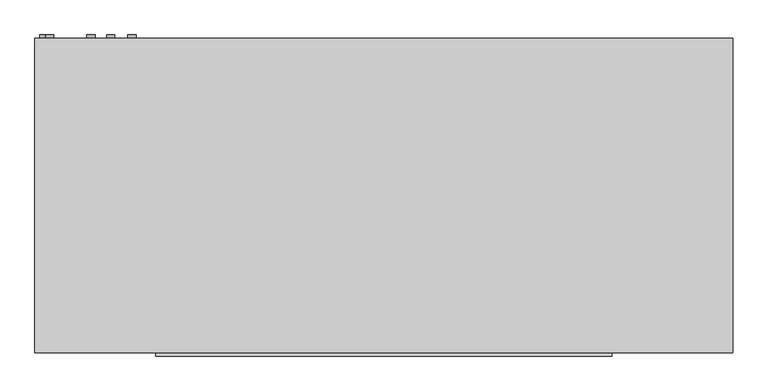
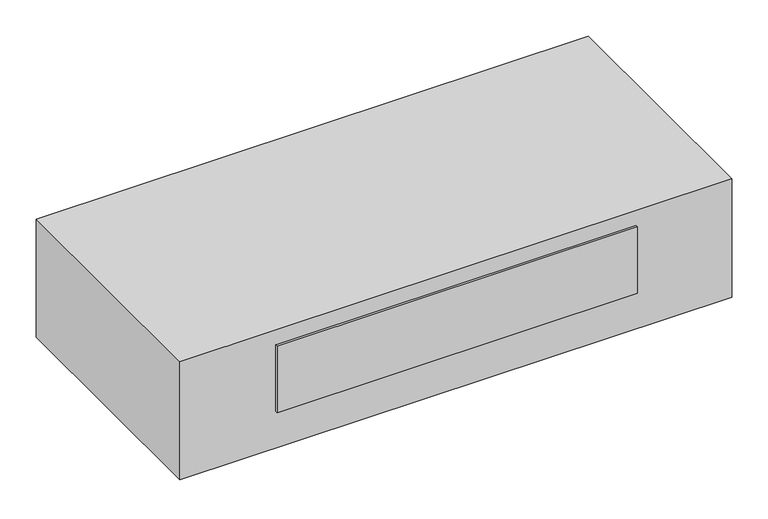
"""IFC4 building model written with IfcOpenShell, lengths in millimetres: proxy geometry, Exposed_Horizontal_Fan_Coil_Unit_-_42CGB_-_CARRIER_-_4-Pipe_FS-BR_LH_2022 : Size 06 - 277v/60Hz/1Ph - 4/1 Coil."""

import ifcopenshell
import ifcopenshell.guid

model = None  # the IFC model being written
_history = None  # IfcOwnerHistory: only IFC2X3 demands one
_inside = {}  # id of a spatial element -> (the spatial element, [elements in it])
_under = {}  # id of a project, library or spatial element -> (it, [spatial elements below it])
_declared = {}  # id of a project -> (the project, [libraries it declares])
_typed = {}  # id of a type object -> (the type object, [elements of that type])
_made_of = {}  # id of a material, layer set ... -> (it, [elements and type objects made of it])


def new_model(schema):
    """Start an empty IFC model of exactly this schema.

    Asked for "IFC4X3", IfcOpenShell would pick the latest addendum, in which some entities
    have other attributes; the version numbers below select the first issue.
    IFC2X3 requires an IfcOwnerHistory on every rooted entity: one is made here for all.
    """
    global model, _history
    if schema == "IFC4X3":
        model = ifcopenshell.file(schema_version=(4, 3, 0, 0))
    else:
        model = ifcopenshell.file(schema=schema)
    _inside.clear()
    _under.clear()
    _declared.clear()
    _typed.clear()
    _made_of.clear()
    _history = None
    if model.schema == "IFC2X3":
        org = make("IfcOrganization", Name="unknown")
        user = make(
            "IfcPersonAndOrganization",
            ThePerson=make("IfcPerson", FamilyName="unknown"),
            TheOrganization=org,
        )
        app = make(
            "IfcApplication",
            ApplicationDeveloper=org,
            Version="unknown",
            ApplicationFullName="unknown",
            ApplicationIdentifier="unknown",
        )
        _history = make(
            "IfcOwnerHistory",
            OwningUser=user,
            OwningApplication=app,
            ChangeAction="ADDED",
            CreationDate=0,
        )
    return model


def make(cls, **values):
    """One entity of the class cls with the attributes given. An attribute that is None is left unset."""
    return model.create_entity(
        cls, **{name: value for name, value in values.items() if value is not None}
    )


def rooted(cls, **values):
    """An entity with a GlobalId (a new one), such as an element, a storey or a relation."""
    return make(cls, GlobalId=ifcopenshell.guid.new(), OwnerHistory=_history, **values)


def si_unit(unit_type, name, prefix=None):
    """IfcSIUnit, for example si_unit("LENGTHUNIT", "METRE", prefix="MILLI")."""
    return make("IfcSIUnit", UnitType=unit_type, Prefix=prefix, Name=name)


def assignment(units):
    """IfcUnitAssignment: the units of a project."""
    return None if units is None else make("IfcUnitAssignment", Units=units)


def point(xyz):
    """IfcCartesianPoint."""
    return None if xyz is None else make("IfcCartesianPoint", Coordinates=xyz)


def direction(xyz):
    """IfcDirection."""
    return None if xyz is None else make("IfcDirection", DirectionRatios=xyz)


def frame(location, z_axis=None, x_axis=None):
    """IfcAxis2Placement3D, a coordinate frame: its origin and axes. An axis left out is left unset."""
    return make(
        "IfcAxis2Placement3D",
        Location=point(location),
        Axis=direction(z_axis),
        RefDirection=direction(x_axis),
    )


def frame_2d(location, x_axis=None):
    """IfcAxis2Placement2D, a coordinate frame in the plane: its origin and x axis."""
    return make(
        "IfcAxis2Placement2D", Location=point(location), RefDirection=direction(x_axis)
    )


def origin():
    """The frame at (0, 0, 0) with its axes left unset."""
    return frame((0.0, 0.0, 0.0))


def place(relative_to, where):
    """IfcLocalPlacement: puts the frame where relative to a parent placement (None: the world)."""
    return make(
        "IfcLocalPlacement", PlacementRelTo=relative_to, RelativePlacement=where
    )


def context(
    kind, dimensions, precision=None, world=None, true_north=None, identifier=None
):
    """IfcGeometricRepresentationContext, for example the 3D "Model" context."""
    return make(
        "IfcGeometricRepresentationContext",
        ContextIdentifier=identifier,
        ContextType=kind,
        CoordinateSpaceDimension=dimensions,
        Precision=precision,
        WorldCoordinateSystem=world,
        TrueNorth=true_north,
    )


def project(units=None, contexts=None):
    """IfcProject with its units and contexts."""
    return rooted(
        "IfcProject",
        Name="project",
        RepresentationContexts=contexts,
        UnitsInContext=assignment(units),
    )


def spatial(cls, under=None, at=None, **own):
    """A site, building, storey or space (cls), placed at a placement, below another one or the project."""
    s = rooted(cls, ObjectPlacement=at, **own)
    if under is not None:
        _under.setdefault(under.id(), (under, []))[1].append(s)
    return s


def polyline(points):
    """IfcPolyline through the points."""
    return make("IfcPolyline", Points=[point(p) for p in points])


def circle_curve(where, radius):
    """IfcCircle in the frame where."""
    return make("IfcCircle", Position=where, Radius=radius)


def trimmed(basis, trim1, trim2, sense, master):
    """IfcTrimmedCurve: the piece of a basis curve between two trims."""
    return make(
        "IfcTrimmedCurve",
        BasisCurve=basis,
        Trim1=trim1,
        Trim2=trim2,
        SenseAgreement=sense,
        MasterRepresentation=master,
    )


def segment(curve, same_sense, transition):
    """IfcCompositeCurveSegment."""
    return make(
        "IfcCompositeCurveSegment",
        Transition=transition,
        SameSense=same_sense,
        ParentCurve=curve,
    )


def composite_curve(segments, self_intersect=None):
    """IfcCompositeCurve: segments joined end to end."""
    return make("IfcCompositeCurve", Segments=segments, SelfIntersect=self_intersect)


def outline(outer, holes=None, kind="AREA"):
    """IfcArbitraryClosedProfileDef: a profile drawn as a closed curve; with holes, ...WithVoids."""
    if holes is None:
        return make("IfcArbitraryClosedProfileDef", ProfileType=kind, OuterCurve=outer)
    return make(
        "IfcArbitraryProfileDefWithVoids",
        ProfileType=kind,
        OuterCurve=outer,
        InnerCurves=holes,
    )


def extrude(swept, where, along, depth):
    """IfcExtrudedAreaSolid: the profile swept, set in the frame where, extruded along a direction by depth."""
    return make(
        "IfcExtrudedAreaSolid",
        SweptArea=swept,
        Position=where,
        ExtrudedDirection=direction(along),
        Depth=depth,
    )


def shape(context_of_items, identifier, shape_type, items):
    """IfcShapeRepresentation: the items that make up one representation, for example the "Body"."""
    return make(
        "IfcShapeRepresentation",
        ContextOfItems=context_of_items,
        RepresentationIdentifier=identifier,
        RepresentationType=shape_type,
        Items=items,
    )


def source(mapping_origin, context_of_items, identifier, shape_type, items):
    """IfcRepresentationMap: a shape defined once, which mapped items show again and again."""
    return make(
        "IfcRepresentationMap",
        MappingOrigin=mapping_origin,
        MappedRepresentation=shape(context_of_items, identifier, shape_type, items),
    )


def transform(
    local_origin,
    x_axis=None,
    y_axis=None,
    z_axis=None,
    scale=None,
    scale2=None,
    scale3=None,
    uniform=True,
):
    """IfcCartesianTransformationOperator3D, or its non-uniform kind. x_axis, y_axis, z_axis: its Axis1, 2, 3."""
    if uniform:
        return make(
            "IfcCartesianTransformationOperator3D",
            Axis1=direction(x_axis),
            Axis2=direction(y_axis),
            LocalOrigin=point(local_origin),
            Scale=scale,
            Axis3=direction(z_axis),
        )
    return make(
        "IfcCartesianTransformationOperator3DnonUniform",
        Axis1=direction(x_axis),
        Axis2=direction(y_axis),
        LocalOrigin=point(local_origin),
        Scale=scale,
        Axis3=direction(z_axis),
        Scale2=scale2,
        Scale3=scale3,
    )


def mapped(mapping_source, mapping_target):
    """IfcMappedItem: shows the shape of a source again, moved by a transform."""
    return make(
        "IfcMappedItem", MappingSource=mapping_source, MappingTarget=mapping_target
    )


def made_of(thing, what):
    """Note that an element or type object is made of a material, layer set ...; save() writes the relation."""
    if what is not None:
        _made_of.setdefault(what.id(), (what, []))[1].append(thing)
    return thing


def element(
    cls,
    number,
    at=None,
    inside=None,
    cuts=None,
    type_object=None,
    material=None,
    context=None,
    identifier="Body",
    shape_type=None,
    held_by="IfcProductDefinitionShape",
    body=None,
    shapes=None,
    **own,
):
    """One element of the class cls, such as IfcWall. Its Tag is "e" and its number.

    at: its placement. inside: the storey or other place that contains it. cuts: it is an
    opening in that element (IfcRelVoidsElement). A single representation is given by context,
    identifier, shape_type and body (its items); several are given by shapes. held_by: the class
    of the entity that holds the representations. save() writes the other relations.
    """
    e = rooted(cls, Tag="e%d" % number, ObjectPlacement=at, **own)
    if body is not None:
        shapes = [shape(context, identifier, shape_type, body)]
    if shapes is not None:
        e.Representation = make(held_by, Representations=shapes)
    if inside is not None:
        _inside.setdefault(inside.id(), (inside, []))[1].append(e)
    if cuts is not None:
        rooted(
            "IfcRelVoidsElement", RelatingBuildingElement=cuts, RelatedOpeningElement=e
        )
    if type_object is not None:
        _typed.setdefault(type_object.id(), (type_object, []))[1].append(e)
    return made_of(e, material)


def aggregate(whole, parts):
    """IfcRelAggregates: a whole, such as a stair, and the parts it consists of."""
    return rooted("IfcRelAggregates", RelatingObject=whole, RelatedObjects=parts)


def save(model, path):
    """Write the relations noted so far, then the file.

    IfcRelAggregates (storeys below a building ...), IfcRelContainedInSpatialStructure (elements
    in a storey), IfcRelDefinesByType, IfcRelAssociatesMaterial and IfcRelDeclares: one each for
    every whole, place, type object, material and project.
    """
    for whole, parts in _under.values():
        aggregate(whole, parts)
    for where, things in _inside.values():
        rooted(
            "IfcRelContainedInSpatialStructure",
            RelatedElements=things,
            RelatingStructure=where,
        )
    for kind, things in _typed.values():
        rooted("IfcRelDefinesByType", RelatedObjects=things, RelatingType=kind)
    for what, things in _made_of.values():
        rooted("IfcRelAssociatesMaterial", RelatedObjects=things, RelatingMaterial=what)
    for by, libraries in _declared.values():
        rooted("IfcRelDeclares", RelatingContext=by, RelatedDefinitions=libraries)
    model.write(path)


def mechanical_equipment_f25a14e5(model_context):
    return source(origin(), model_context, "Body", "SweptSolid", [
        extrude(outline(composite_curve([segment(trimmed(circle_curve(frame_2d((-261.434158, -501.8546393)), 9.525), [point((-261.434158, -492.3296393))], [point((-261.434158, -511.3796393))], False, "CARTESIAN"), True, "CONTINUOUS"), segment(trimmed(circle_curve(frame_2d((-261.434158, -501.8546393)), 9.525), [point((-261.434158, -511.3796393))], [point((-261.434158, -492.3296393))], False, "CARTESIAN"), True, "CONTINUOUS")], self_intersect=False)), frame((0.0, 65.0875, 0.0), z_axis=(0.0, 1.0, 0.0), x_axis=(0.0, 0.0, 1.0)), (0.0, 0.0, 1.0), 6.35),
        extrude(outline(composite_curve([segment(trimmed(circle_curve(frame_2d((-85.725, -492.125)), 7.9375), [point((-85.725, -484.1875))], [point((-85.725, -500.0625))], False, "CARTESIAN"), True, "CONTINUOUS"), segment(trimmed(circle_curve(frame_2d((-85.725, -492.125)), 7.9375), [point((-85.725, -500.0625))], [point((-85.725, -484.1875))], False, "CARTESIAN"), True, "CONTINUOUS")], self_intersect=False)), frame((0.0, 65.0875, 0.0), z_axis=(0.0, 1.0, 0.0), x_axis=(0.0, 0.0, 1.0)), (0.0, 0.0, 1.0), 6.35),
        extrude(outline(composite_curve([segment(trimmed(circle_curve(frame_2d((-44.45, -412.75)), 7.9375), [point((-44.45, -404.8125))], [point((-44.45, -420.6875))], False, "CARTESIAN"), True, "CONTINUOUS"), segment(trimmed(circle_curve(frame_2d((-44.45, -412.75)), 7.9375), [point((-44.45, -420.6875))], [point((-44.45, -404.8125))], False, "CARTESIAN"), True, "CONTINUOUS")], self_intersect=False)), frame((0.0, 65.0875, 0.0), z_axis=(0.0, 1.0, 0.0), x_axis=(0.0, 0.0, 1.0)), (0.0, 0.0, 1.0), 6.35),
        extrude(outline(composite_curve([segment(trimmed(circle_curve(frame_2d((-95.25, -374.65)), 7.9375), [point((-95.25, -366.7125))], [point((-95.25, -382.5875))], False, "CARTESIAN"), True, "CONTINUOUS"), segment(trimmed(circle_curve(frame_2d((-95.25, -374.65)), 7.9375), [point((-95.25, -382.5875))], [point((-95.25, -366.7125))], False, "CARTESIAN"), True, "CONTINUOUS")], self_intersect=False)), frame((0.0, 65.0875, 0.0), z_axis=(0.0, 1.0, 0.0), x_axis=(0.0, 0.0, 1.0)), (0.0, 0.0, 1.0), 6.35),
        extrude(outline(composite_curve([segment(trimmed(circle_curve(frame_2d((-60.325, -333.375)), 7.9375), [point((-60.325, -325.4375))], [point((-60.325, -341.3125))], False, "CARTESIAN"), True, "CONTINUOUS"), segment(trimmed(circle_curve(frame_2d((-60.325, -333.375)), 7.9375), [point((-60.325, -341.3125))], [point((-60.325, -325.4375))], False, "CARTESIAN"), True, "CONTINUOUS")], self_intersect=False)), frame((0.0, 65.0875, 0.0), z_axis=(0.0, 1.0, 0.0), x_axis=(0.0, 0.0, 1.0)), (0.0, 0.0, 1.0), 6.35),
        extrude(outline(polyline([(-520.7, 65.0875), (825.5, 65.0875), (825.5, -541.3375), (-520.7, -541.3375), (-520.7, 65.0875)])), frame((0.0, 0.0, -304.8), z_axis=(0.0, 0.0, 1.0), x_axis=(1.0, 0.0, 0.0)), (0.0, 0.0, 1.0), 304.8),
        extrude(outline(polyline([(592.1375, -547.6875), (-287.3375, -547.6875), (-287.3375, -541.3375), (592.1375, -541.3375), (592.1375, -547.6875)])), frame((0.0, 0.0, -209.55), z_axis=(0.0, 0.0, 1.0), x_axis=(1.0, 0.0, 0.0)), (0.0, 0.0, 1.0), 171.45),
        extrude(outline(polyline([(622.3, -11.1125), (622.3, -265.1125), (-317.5, -265.1125), (-317.5, -11.1125), (622.3, -11.1125)])), frame((0.0, 0.0, -311.15), z_axis=(0.0, 0.0, 1.0), x_axis=(1.0, 0.0, 0.0)), (0.0, 0.0, 1.0), 6.35),
    ])


if __name__ == "__main__":
    model = new_model("IFC4")
    model_context = context("Model", 3, world=origin())
    ifc_project = project(units=[si_unit("LENGTHUNIT", "METRE", prefix="MILLI")], contexts=[model_context])
    site = spatial("IfcSite", under=ifc_project)
    building = spatial("IfcBuilding", under=site)
    placement = place(None, origin())
    mechanical_equipment_shape = mechanical_equipment_f25a14e5(model_context)
    element("IfcBuildingElementProxy", 1, Name="Exposed_Horizontal_Fan_Coil_Unit_-_42CGB_-_CARRIER_-_4-Pipe_FS-BR_LH_2022 : Size 06 - 277v/60Hz/1Ph - 4/1 Coil", ObjectType="Exposed_Horizontal_Fan_Coil_Unit_-_42CGB_-_CARRIER_-_4-Pipe_FS-BR_LH_2022 : Size 06 - 277v/60Hz/1Ph - 4/1 Coil", at=placement, inside=building, context=model_context, shape_type="MappedRepresentation", body=[
        mapped(mechanical_equipment_shape, transform((0.0, 0.0, 0.0), x_axis=(1.0, 0.0, 0.0), y_axis=(0.0, 1.0, 0.0), z_axis=(0.0, 0.0, 1.0))),
    ])
    save(model, "model.ifc")
